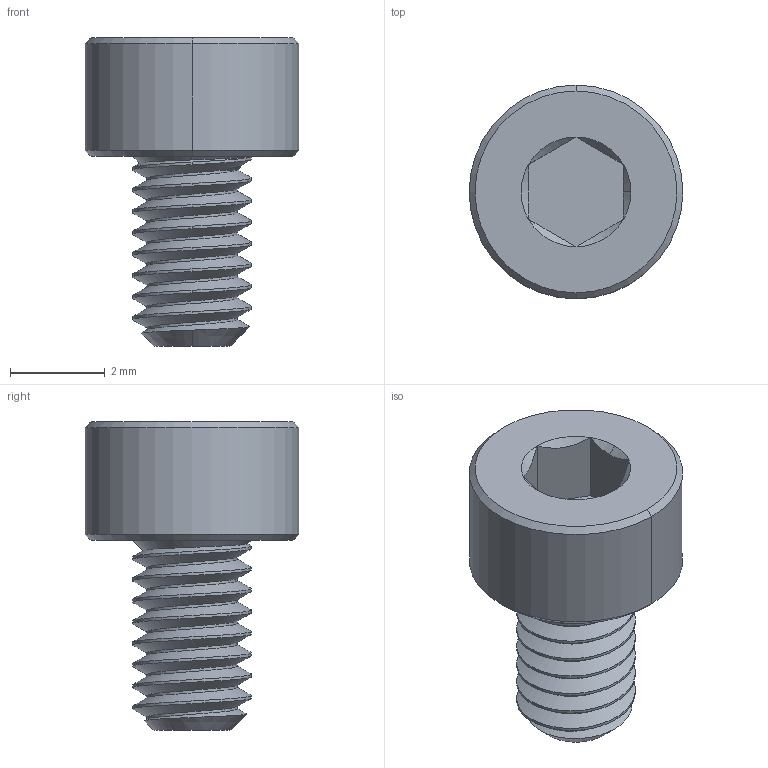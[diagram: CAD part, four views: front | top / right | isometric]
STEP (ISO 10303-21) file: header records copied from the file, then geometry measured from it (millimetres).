
FILE_DESCRIPTION (( 'STEP AP203' ), '1' );
FILE_NAME ('91290A099_Black-Oxide Alloy Steel Socket Head Screw.STEP', '2022-02-03T14:09:46', ( 'Administrator' ), ( 'Managed by Terraform' ), 'SwSTEP 2.0', 'SolidWorks 2017', '' );
FILE_SCHEMA (( 'CONFIG_CONTROL_DESIGN' ));
Length unit declared in the file: millimetre
Products named in the file (1): 91290A099_Black-Oxide Alloy Steel Socket Head Screw
Bounding box: 4.5 x 4.5 x 6.5 mm (x, y, z)
Volume: 49.6 mm3; surface area: 119.5 mm2
Topology: 1 solids, 1 shells, 48 faces, 113 edges, 69 vertices
Faces by surface type: cylinder 19, cone 16, plane 10, bspline 3
Entity records: 2531 total; most frequent: CARTESIAN_POINT 1489, ORIENTED_EDGE 226, DIRECTION 175, EDGE_CURVE 113, VERTEX_POINT 69, AXIS2_PLACEMENT_3D 68, EDGE_LOOP 50, FACE_OUTER_BOUND 48
